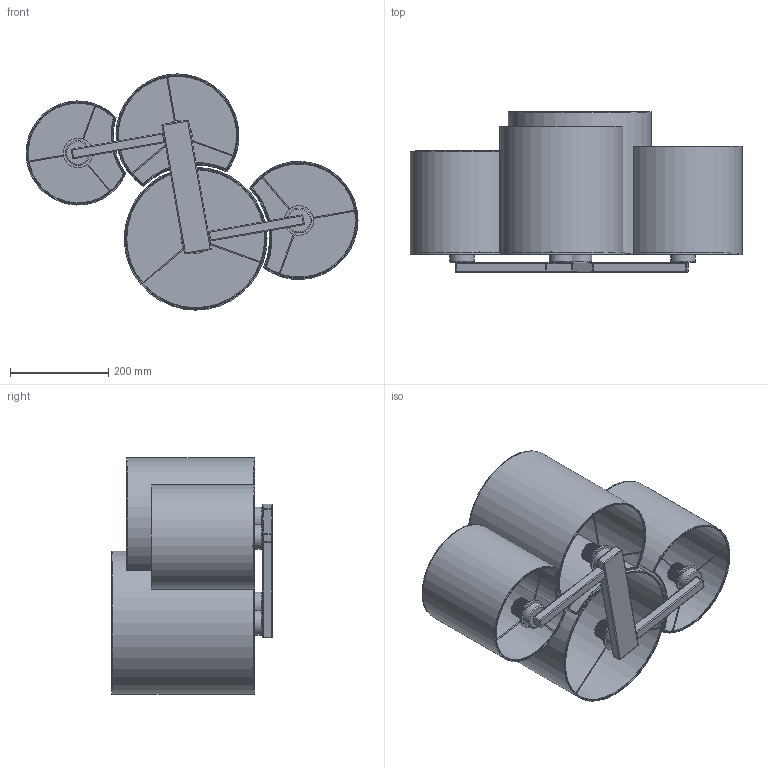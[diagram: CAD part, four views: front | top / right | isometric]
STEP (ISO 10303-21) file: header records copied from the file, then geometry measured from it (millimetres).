
FILE_DESCRIPTION(/* description */ (''),/* implementation_level */ '2;1');
FILE_NAME(/* name */ 'C:/Users/kubaw/OneDrive/Pulpit/TK_lighting - modele 2/OK/4393_MONA v8/4393_MONA v8.step',/* time_stamp */ '2021-03-31T19:52:36+02:00',/* author */ (''),/* organization */ (''),/* preprocessor_version */ 'ST-DEVELOPER v18.1',/* originating_system */ 'Autodesk Translation Framework v9.10.0.1330',/* authorisation */ '');
FILE_SCHEMA (('AUTOMOTIVE_DESIGN { 1 0 10303 214 3 1 1 }'));
Length unit declared in the file: millimetre
Products named in the file (2): 4393_MONA; MOCOWANIE_MONA
Assembly tree (4 placements, depth 2):
  4393_MONA
    MOCOWANIE_MONA  x4
Bounding box: 674.38 x 326 x 479.76 mm (x, y, z)
Volume: 1656578.6 mm3; surface area: 2110268.7 mm2
Topology: 71 solids, 71 shells, 705 faces, 1369 edges, 842 vertices
Faces by surface type: cylinder 331, plane 258, sphere 64, bspline 36, torus 16
Full cylindrical faces by diameter (mm): 2 x24, 3 x20, 32 x4, 34.939 x52, 42 x4, 46 x4, 50 x4, 56 x4, 60 x4, 280 x1, 282 x1, 284 x1, 288 x1, 290 x1
Entity records: 15042 total; most frequent: CARTESIAN_POINT 8531, DIRECTION 1431, ORIENTED_EDGE 1184, AXIS2_PLACEMENT_3D 602, EDGE_CURVE 592, VERTEX_POINT 356, EDGE_LOOP 346, FACE_OUTER_BOUND 321
